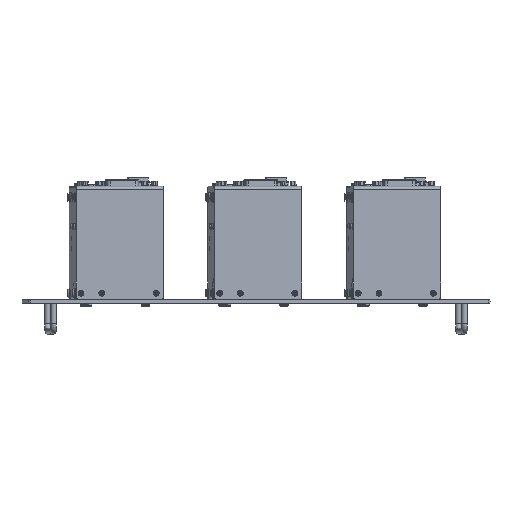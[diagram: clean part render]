
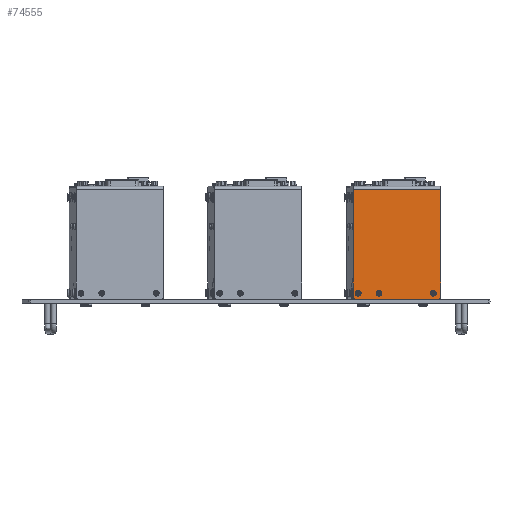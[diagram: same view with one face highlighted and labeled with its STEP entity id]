
A CAD part, front view. The second image highlights one B-rep face of the part: STEP entity #74555.
In plain terms, the highlighted planar face has unit normal (0.084, -0.997, 0).
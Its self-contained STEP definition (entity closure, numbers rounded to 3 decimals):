
#3869=LINE('',#115049,#10321);
#3871=LINE('',#115053,#10323);
#3872=LINE('',#115057,#10324);
#3873=LINE('',#115058,#10325);
#10321=VECTOR('',#92641,2.16);
#10323=VECTOR('',#92645,10.);
#10324=VECTOR('',#92648,2.16);
#10325=VECTOR('',#92649,10.);
#15381=FACE_BOUND('',#21965,.T.);
#15382=FACE_BOUND('',#21966,.T.);
#15383=FACE_BOUND('',#21967,.T.);
#17341=FACE_OUTER_BOUND('',#21964,.T.);
#21964=EDGE_LOOP('',(#52541,#52542,#52543,#52544,#52545,#52546));
#21965=EDGE_LOOP('',(#52547,#52548));
#21966=EDGE_LOOP('',(#52549,#52550));
#21967=EDGE_LOOP('',(#52551,#52552));
#26311=CIRCLE('',#80153,2.5);
#26312=CIRCLE('',#80156,2.5);
#26313=CIRCLE('',#80157,3.);
#26314=CIRCLE('',#80158,3.);
#26315=CIRCLE('',#80159,3.);
#26316=CIRCLE('',#80160,3.);
#26317=CIRCLE('',#80161,3.);
#26318=CIRCLE('',#80162,3.);
#30609=VERTEX_POINT('',#115042);
#30610=VERTEX_POINT('',#115044);
#30611=VERTEX_POINT('',#115048);
#30612=VERTEX_POINT('',#115052);
#30613=VERTEX_POINT('',#115054);
#30614=VERTEX_POINT('',#115056);
#30615=VERTEX_POINT('',#115059);
#30616=VERTEX_POINT('',#115060);
#30617=VERTEX_POINT('',#115063);
#30618=VERTEX_POINT('',#115064);
#30619=VERTEX_POINT('',#115067);
#30620=VERTEX_POINT('',#115068);
#38484=EDGE_CURVE('',#30609,#30610,#26311,.T.);
#38486=EDGE_CURVE('',#30611,#30610,#3869,.T.);
#38488=EDGE_CURVE('',#30609,#30612,#3871,.T.);
#38489=EDGE_CURVE('',#30613,#30612,#26312,.T.);
#38490=EDGE_CURVE('',#30614,#30613,#3872,.T.);
#38491=EDGE_CURVE('',#30614,#30611,#3873,.T.);
#38492=EDGE_CURVE('',#30615,#30616,#26313,.T.);
#38493=EDGE_CURVE('',#30616,#30615,#26314,.T.);
#38494=EDGE_CURVE('',#30617,#30618,#26315,.T.);
#38495=EDGE_CURVE('',#30618,#30617,#26316,.T.);
#38496=EDGE_CURVE('',#30619,#30620,#26317,.T.);
#38497=EDGE_CURVE('',#30620,#30619,#26318,.T.);
#52541=ORIENTED_EDGE('',*,*,#38484,.F.);
#52542=ORIENTED_EDGE('',*,*,#38488,.T.);
#52543=ORIENTED_EDGE('',*,*,#38489,.F.);
#52544=ORIENTED_EDGE('',*,*,#38490,.F.);
#52545=ORIENTED_EDGE('',*,*,#38491,.T.);
#52546=ORIENTED_EDGE('',*,*,#38486,.T.);
#52547=ORIENTED_EDGE('',*,*,#38492,.T.);
#52548=ORIENTED_EDGE('',*,*,#38493,.T.);
#52549=ORIENTED_EDGE('',*,*,#38494,.T.);
#52550=ORIENTED_EDGE('',*,*,#38495,.T.);
#52551=ORIENTED_EDGE('',*,*,#38496,.T.);
#52552=ORIENTED_EDGE('',*,*,#38497,.T.);
#66697=PLANE('',#80155);
#74555=ADVANCED_FACE('',(#17341,#15381,#15382,#15383),#66697,.T.);
#80153=AXIS2_PLACEMENT_3D('',#115045,#92636,#92637);
#80155=AXIS2_PLACEMENT_3D('',#115051,#92643,#92644);
#80156=AXIS2_PLACEMENT_3D('',#115055,#92646,#92647);
#80157=AXIS2_PLACEMENT_3D('',#115061,#92650,#92651);
#80158=AXIS2_PLACEMENT_3D('',#115062,#92652,#92653);
#80159=AXIS2_PLACEMENT_3D('',#115065,#92654,#92655);
#80160=AXIS2_PLACEMENT_3D('',#115066,#92656,#92657);
#80161=AXIS2_PLACEMENT_3D('',#115069,#92658,#92659);
#80162=AXIS2_PLACEMENT_3D('',#115070,#92660,#92661);
#92636=DIRECTION('center_axis',(-0.084,0.996,0.));
#92637=DIRECTION('ref_axis',(-0.705,-0.06,-0.707));
#92641=DIRECTION('',(0.,0.,-1.));
#92643=DIRECTION('center_axis',(0.084,-0.996,0.));
#92644=DIRECTION('ref_axis',(0.,0.,
-1.));
#92645=DIRECTION('',(0.996,0.084,0.));
#92646=DIRECTION('center_axis',(-0.084,0.996,0.));
#92647=DIRECTION('ref_axis',(0.705,0.06,-0.707));
#92648=DIRECTION('',(0.,0.,-1.));
#92649=DIRECTION('',(-0.996,-0.084,0.));
#92650=DIRECTION('center_axis',(-0.084,0.996,0.));
#92651=DIRECTION('ref_axis',(0.,0.,
-1.));
#92652=DIRECTION('center_axis',(-0.084,0.996,0.));
#92653=DIRECTION('ref_axis',(0.,0.,
-1.));
#92654=DIRECTION('center_axis',(-0.084,0.996,0.));
#92655=DIRECTION('ref_axis',(0.,0.,
-1.));
#92656=DIRECTION('center_axis',(-0.084,0.996,0.));
#92657=DIRECTION('ref_axis',(0.,0.,
-1.));
#92658=DIRECTION('center_axis',(-0.084,0.996,0.));
#92659=DIRECTION('ref_axis',(0.,0.,
-1.));
#92660=DIRECTION('center_axis',(-0.084,0.996,0.));
#92661=DIRECTION('ref_axis',(0.,0.,
-1.));
#115042=CARTESIAN_POINT('',(248.183,-75.187,-116.5));
#115044=CARTESIAN_POINT('',(245.692,-75.397,-114.));
#115045=CARTESIAN_POINT('Origin',(248.183,-75.187,-114.));
#115048=CARTESIAN_POINT('',(245.692,-75.397,-1.5));
#115049=CARTESIAN_POINT('',(245.692,-75.397,5.286));
#115051=CARTESIAN_POINT('Origin',(291.13,-71.56,-57.304));
#115052=CARTESIAN_POINT('',(334.078,-67.933,-116.5));
#115053=CARTESIAN_POINT('',(245.692,-75.397,-116.5));
#115054=CARTESIAN_POINT('',(336.569,-67.722,-114.));
#115055=CARTESIAN_POINT('Origin',(334.078,-67.933,-114.));
#115056=CARTESIAN_POINT('',(336.569,-67.722,-1.5));
#115057=CARTESIAN_POINT('',(336.569,-67.722,5.286));
#115058=CARTESIAN_POINT('',(291.13,-71.56,-1.5));
#115059=CARTESIAN_POINT('',(272.297,-73.15,-113.));
#115060=CARTESIAN_POINT('',(272.297,-73.15,-107.));
#115061=CARTESIAN_POINT('Origin',(272.297,-73.15,-110.));
#115062=CARTESIAN_POINT('Origin',(272.297,-73.15,-110.));
#115063=CARTESIAN_POINT('',(329.095,-68.354,-113.));
#115064=CARTESIAN_POINT('',(329.095,-68.354,-107.));
#115065=CARTESIAN_POINT('Origin',(329.095,-68.354,-110.));
#115066=CARTESIAN_POINT('Origin',(329.095,-68.354,-110.));
#115067=CARTESIAN_POINT('',(250.674,-74.976,-113.));
#115068=CARTESIAN_POINT('',(250.674,-74.976,-107.));
#115069=CARTESIAN_POINT('Origin',(250.674,-74.976,-110.));
#115070=CARTESIAN_POINT('Origin',(250.674,-74.976,-110.));
